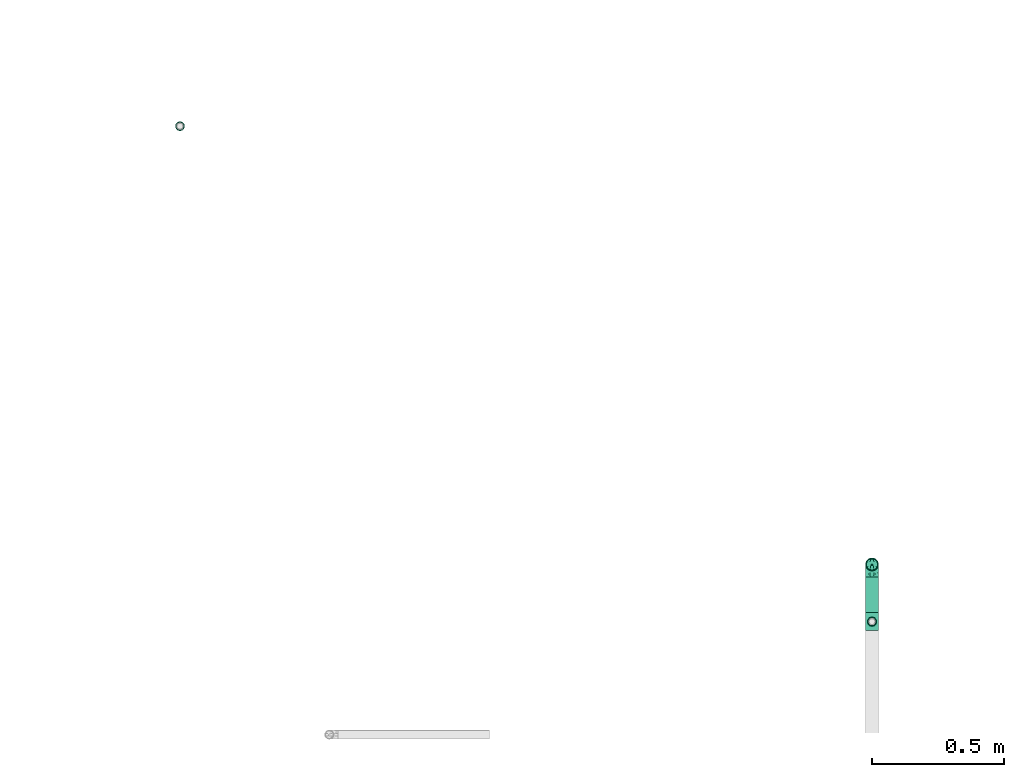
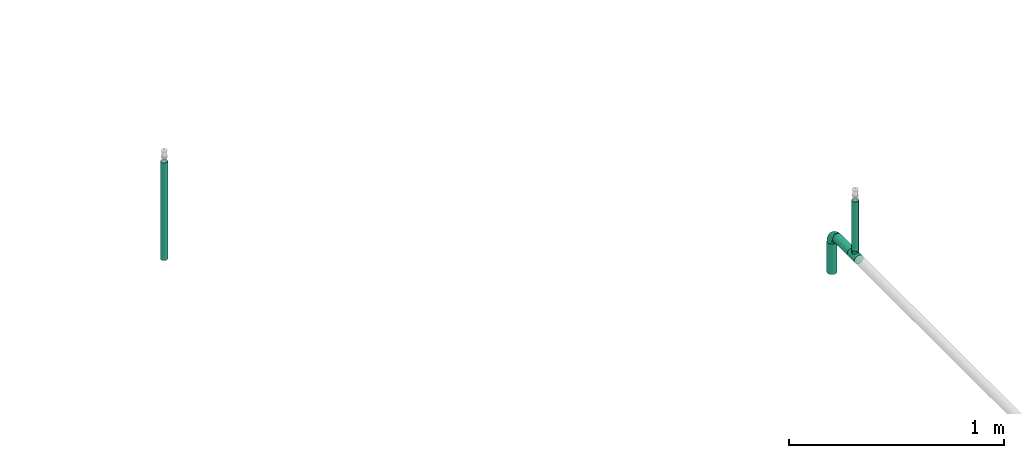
# One storey, part 18 of 63: 4 flow segments, 2 flow fittings.
"""IFC2X3 building model written with IfcOpenShell, lengths in millimetres."""

from ifc_helpers import new_model, entity, si_unit, converted_unit, derived_unit, direction, frame, origin_with_axes, origin_2d_with_axis, place, context, subcontext, project, spatial, hollow_circle, extrude, open_shell, surface_model, source, transform, mapped, type_object, element, save


model = new_model("IFC2X3")

# Units and contexts
model_context = context("Model", 3, precision=0.01, world=frame((0.0, 4.29681676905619e-09, 0.0)), true_north=direction((4.01073788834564e-13, 1.0)))
plan_context = context("Plan", 3, precision=0.01, world=frame((0.0, 4.29681676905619e-09, 0.0)), true_north=direction((4.01073788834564e-13, 1.0)))
body_context = subcontext(model_context, "Body", "Model", "MODEL_VIEW")
ifc_project = project(units=[converted_unit("PLANEANGLEUNIT", "DEGREE", entity("IfcPositiveLengthMeasure", 0.0174532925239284), si_unit("PLANEANGLEUNIT", "RADIAN"), dimensions=[0, 0, 0, 0, 0, 0, 0]), si_unit("AREAUNIT", "SQUARE_METRE"), si_unit("LENGTHUNIT", "METRE", prefix="MILLI"), si_unit("MASSUNIT", "GRAM", prefix="KILO"), si_unit("POWERUNIT", "WATT"), si_unit("PRESSUREUNIT", "PASCAL", prefix="KILO"), si_unit("FORCEUNIT", "NEWTON", prefix="KILO"), si_unit("ELECTRICVOLTAGEUNIT", "VOLT"), si_unit("ELECTRICCURRENTUNIT", "AMPERE"), si_unit("THERMODYNAMICTEMPERATUREUNIT", "DEGREE_CELSIUS"), si_unit("TIMEUNIT", "SECOND"), si_unit("VOLUMEUNIT", "CUBIC_METRE"), derived_unit("LINEARVELOCITYUNIT", [(si_unit("LENGTHUNIT", "METRE"), 1), (si_unit("TIMEUNIT", "SECOND"), -1)]), derived_unit("VOLUMETRICFLOWRATEUNIT", [(si_unit("VOLUMEUNIT", "CUBIC_METRE"), 1), (si_unit("TIMEUNIT", "SECOND"), -1)]), derived_unit("THERMALTRANSMITTANCEUNIT", [(si_unit("POWERUNIT", "WATT"), 1), (si_unit("THERMODYNAMICTEMPERATUREUNIT", "KELVIN"), -1), (si_unit("AREAUNIT", "SQUARE_METRE"), -1)]), derived_unit("SOUNDPRESSUREUNIT", [(si_unit("PRESSUREUNIT", "PASCAL"), 1)])], contexts=[model_context, plan_context])

# Site, building, storey
site_placement = place(None, frame((0.0, -4.29681676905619e-09, 0.0), z_axis=(0.0, 0.0, 1.0), x_axis=(1.0, 0.0, 0.0)))
site = spatial("IfcSite", under=ifc_project, at=site_placement, CompositionType="ELEMENT")
building_placement = place(site_placement, frame((0.0, 4.29681676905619e-09, 0.0), z_axis=(0.0, 0.0, 1.0), x_axis=(1.0, 0.0, 0.0)))
building = spatial("IfcBuilding", under=site, at=building_placement, Name="mc-building", CompositionType="ELEMENT")
storey_placement = place(building_placement, frame((0.0, 0.0, 207370.0), z_axis=(0.0, 0.0, 1.0), x_axis=(1.0, 0.0, 0.0)))
storey = spatial("IfcBuildingStorey", under=building, at=storey_placement, Name="Nivå E", CompositionType="ELEMENT", Elevation=207370.0)

# Flow fittings
pipe_fitting_type_1 = type_object("IfcPipeFittingType", Name="magi_pipe_fe_elbow_short_001", PredefinedType="BEND")
shared_shape_1 = source(origin_with_axes(), body_context, "Body", "SurfaceModel", [
    surface_model("IfcShellBasedSurfaceModel", [(-48.4, 6.26342, -23.37541), (-48.4, 0.0, -24.2), (-48.4, 17.11198, -17.11198), (-48.4, 12.1, -20.95781), (-48.4, 23.37541, -6.26342), (-48.4, 20.95781, -12.1), (-48.4, -12.1, -20.95781), (-48.4, -17.11198, -17.11198), (-48.4, -20.95781, -12.1), (-48.4, -6.26342, -23.37541), (-48.4, -23.37541, -6.26342), (-48.4, -24.2, 0.0), (-48.4, -23.37541, 6.26342), (-48.4, 23.37541, 6.26342), (-48.4, 6.26342, 23.37541), (-48.4, 20.95781, 12.1), (-48.4, 17.11198, 17.11198), (-48.4, 12.1, 20.95781), (-48.4, -12.1, 20.95781), (-48.4, -20.95781, 12.1), (-48.4, -17.11198, 17.11198), (-48.4, -6.26342, 23.37541), (-48.4, 0.0, 24.2), (-48.4, 24.2, 0.0), (-17.11198, 48.4, -17.11198), (0.0, 48.4, -24.2), (-6.26342, 48.4, -23.37541), (-12.1, 48.4, -20.95781), (-20.95781, 48.4, -12.1), (-23.37541, 48.4, -6.26342), (12.1, 48.4, -20.95781), (20.95781, 48.4, -12.1), (17.11198, 48.4, -17.11198), (6.26342, 48.4, -23.37541), (23.37541, 48.4, -6.26342), (23.37541, 48.4, 6.26342), (24.2, 48.4, 0.0), (-23.37541, 48.4, 6.26342), (-6.26342, 48.4, 23.37541), (-17.11198, 48.4, 17.11198), (-20.95781, 48.4, 12.1), (-12.1, 48.4, 20.95781), (12.1, 48.4, 20.95781), (17.11198, 48.4, 17.11198), (20.95781, 48.4, 12.1), (0.0, 48.4, 24.2), (6.26342, 48.4, 23.37541), (-24.2, 48.4, 0.0), (-35.50368, -18.80076, 13.58523), (-31.77913, -13.9618, 18.03279), (-34.50859, -21.43683, 0.0), (-21.39243, -15.41147, 12.21413), (-32.16301, -21.12203, 7.54749), (21.12203, 32.16301, 7.54749), (17.07617, 18.95745, 6.20374), (18.67365, 20.61718, 0.0), (-23.65565, 38.62451, 10.51816), (-20.21592, 37.67665, 15.89859), (-35.56981, -9.15108, 21.77256), (-36.96985, -3.20584, 23.78612), (-33.88786, 3.70953, 24.15875), (-8.84062, -10.8048, 0.0), (-18.95745, -17.07617, 6.20374), (-20.61718, -18.67365, 0.0), (-18.69715, -5.87343, 20.10488), (-24.09336, -0.21717, 23.45593), (-2.08262, -4.09091, 10.90396), (-0.40561, 0.49936, 14.45569), (-8.22634, -5.79523, 14.90978), (-37.83027, 20.17367, 15.88169), (-8.41063, 23.79825, 24.15658), (-17.92529, 17.92529, 23.61199), (-14.40991, 10.5752, 24.07534), (-41.86919, 14.6551, 19.71874), (-9.03342, 41.7434, 22.66763), (-3.31671, 36.19978, 24.14056), (-38.63654, 23.65174, 10.51655), (-38.25939, 25.77657, 5.32075), (-30.0475, 30.0475, 9.04616), (-37.30448, 9.49113, 22.86036), (-6.31688, 16.20853, 23.76192), (-12.02449, 4.43954, 22.59792), (-2.47225, 13.07459, 22.23951), (-4.32281, 4.32281, 19.78555), (13.9618, 31.77913, 18.03279), (15.41147, 21.39243, 12.21413), (18.80076, 35.50367, 13.58523), (-25.72741, 16.42033, 22.38358), (-26.59277, 10.36599, 23.76692), (3.20584, 36.96985, 23.78612), (9.15107, 35.56981, 21.77256), (5.87343, 18.69715, 20.10488), (21.43683, 34.50859, 0.0), (-23.74657, 5.93004, 24.18967), (-22.40302, 25.55556, 19.88516), (-33.3245, 16.42738, 20.3789), (-25.47357, 39.04012, 5.19167), (-30.32947, 31.74105, 4.25904), (11.04589, 19.60124, 16.55181), (-27.44219, 36.3, 0.0), (-10.46605, 32.79159, 23.04712), (-13.80953, 25.05111, 23.26361), (-17.54489, 31.27863, 20.33941), (-19.27982, 23.42922, 22.01925), (-14.78447, 40.57947, 19.81913), (-19.60124, -11.04589, 16.55181), (-25.09785, 32.07921, 13.69695), (-25.5093, 27.02629, 17.14196), (-31.08127, 26.00324, 13.49448), (0.21717, 24.09336, 23.45593), (5.51075, 8.40547, 15.32867), (-11.48597, -10.80284, 11.35932), (1.43689, -3.14326, 6.54995), (7.34882, 4.31024, 8.4514), (7.50574, 2.51208, 3.62663), (12.46453, 10.09451, 5.71609), (12.1504, 12.55391, 10.15678), (-36.3, 27.44219, 0.0), (-6.52237, -9.62364, 7.02633), (2.93595, -2.93595, 0.0), (10.8048, 8.84062, 0.0), (-19.60124, -11.04589, -16.55181), (-31.77913, -13.9618, -18.03279), (-18.69715, -5.87343, -20.10488), (-21.39243, -15.41147, -12.21413), (-37.67665, 20.21591, -15.89859), (-40.57947, 14.78447, -19.81913), (-39.04012, 25.47357, -5.19167), (-32.16301, -21.12203, -7.54749), (-30.0475, 30.0475, -9.04616), (-38.62452, 23.65565, -10.51816), (-18.95745, -17.07617, -6.20374), (-23.42922, 19.27982, -22.01926), (-25.05111, 13.80953, -23.26361), (-31.27863, 17.54489, -20.33941), (-14.6551, 41.86919, -19.71874), (-20.17367, 37.83026, -15.88169), (9.15108, 35.56981, -21.77256), (5.87343, 18.69715, -20.10488), (0.21717, 24.09336, -23.45593), (-41.7434, 9.03342, -22.66763), (-35.50368, -18.80076, -13.58523), (-35.56981, -9.15108, -21.77256), (-16.42033, 25.72741, -22.38358), (-9.49113, 37.30447, -22.86036), (-10.36599, 26.59277, -23.76692), (-36.96985, -3.20584, -23.78612), (-23.79826, 8.41063, -24.15658), (-17.92529, 17.92529, -23.61199), (-10.5752, 14.40991, -24.07534), (-36.19978, 3.31671, -24.14056), (-25.77657, 38.25939, -5.32075), (-23.65174, 38.63654, -10.51655), (-32.79159, 10.46605, -23.04712), (-31.74105, 30.32946, -4.25904), (-5.93004, 23.74657, -24.18967), (-25.55556, 22.40302, -19.88516), (-16.42738, 33.3245, -20.3789), (3.20584, 36.96985, -23.78612), (-3.70953, 33.88785, -24.15875), (18.80076, 35.50367, -13.58523), (13.9618, 31.77913, -18.03279), (7.50574, 2.51208, -3.62663), (12.46453, 10.09451, -5.71609), (-16.20853, 6.31688, -23.76192), (-4.43954, 12.02449, -22.59792), (-13.07459, 2.47225, -22.23951), (1.43689, -3.14326, -6.54995), (-6.52237, -9.62364, -7.02632), (-2.08262, -4.09091, -10.90396), (15.41147, 21.39243, -12.21413), (21.12203, 32.16301, -7.54749), (17.07617, 18.95745, -6.20374), (-32.07921, 25.09785, -13.69695), (11.04589, 19.60124, -16.55181), (12.1504, 12.55391, -10.15678), (5.51075, 8.40547, -15.32867), (-27.02629, 25.5093, -17.14196), (-26.00324, 31.08127, -13.49448), (-24.09336, -0.21717, -23.45593), (-4.32281, 4.32281, -19.78555), (-8.22634, -5.79524, -14.90978), (-11.48597, -10.80284, -11.35931), (-0.40561, 0.49936, -14.45569), (7.34882, 4.31024, -8.4514)], [open_shell([[[0, 1, 2]], [[3, 0, 2]], [[4, 5, 2]], [[6, 2, 1]], [[4, 2, 6]], [[7, 8, 6]], [[1, 9, 6]], [[8, 10, 6]], [[6, 10, 4]], [[11, 12, 10]], [[13, 4, 10]], [[14, 13, 10]], [[15, 13, 16]], [[13, 14, 17]], [[16, 13, 17]], [[10, 18, 14]], [[19, 20, 12]], [[20, 10, 12]], [[21, 22, 18]], [[20, 18, 10]], [[18, 22, 14]], [[23, 4, 13]], [[24, 25, 26]], [[24, 26, 27]], [[24, 28, 29]], [[25, 24, 30]], [[30, 24, 29]], [[30, 31, 32]], [[30, 33, 25]], [[30, 34, 31]], [[29, 34, 30]], [[34, 35, 36]], [[34, 29, 37]], [[34, 37, 38]], [[39, 37, 40]], [[41, 38, 37]], [[41, 37, 39]], [[38, 42, 34]], [[35, 43, 44]], [[35, 34, 43]], [[42, 45, 46]], [[34, 42, 43]], [[38, 45, 42]], [[37, 29, 47]], [[20, 48, 49]], [[12, 11, 50]], [[51, 48, 52]], [[53, 54, 55]], [[48, 20, 19]], [[12, 52, 19]], [[40, 56, 57]], [[49, 18, 20]], [[49, 58, 18]], [[22, 59, 60]], [[61, 62, 63]], [[58, 64, 65]], [[66, 67, 68]], [[15, 16, 69]], [[70, 71, 72]], [[17, 73, 16]], [[21, 59, 22]], [[38, 74, 75]], [[22, 60, 14]], [[15, 69, 76]], [[16, 73, 69]], [[23, 13, 77]], [[13, 15, 76]], [[77, 76, 78]], [[14, 79, 17]], [[80, 81, 82]], [[68, 83, 64]], [[84, 43, 42]], [[85, 86, 84]], [[87, 79, 88]], [[18, 58, 21]], [[45, 89, 46]], [[53, 35, 44]], [[45, 38, 75]], [[84, 90, 91]], [[44, 86, 53]], [[92, 35, 53]], [[86, 44, 43]], [[90, 42, 46]], [[53, 55, 92]], [[88, 93, 72]], [[54, 53, 85]], [[87, 94, 95]], [[78, 96, 97]], [[98, 84, 91]], [[99, 96, 47]], [[79, 14, 60]], [[96, 78, 56]], [[62, 52, 63]], [[57, 39, 40]], [[100, 70, 75]], [[101, 102, 103]], [[12, 50, 52]], [[104, 41, 39]], [[74, 38, 41]], [[57, 102, 104]], [[105, 64, 49]], [[90, 84, 42]], [[40, 37, 56]], [[56, 106, 57]], [[102, 57, 107]], [[95, 107, 69]], [[76, 108, 78]], [[100, 101, 70]], [[89, 75, 109]], [[64, 58, 49]], [[63, 52, 50]], [[59, 58, 65]], [[105, 49, 51]], [[64, 83, 81]], [[89, 90, 46]], [[36, 35, 92]], [[109, 82, 91]], [[109, 91, 90]], [[91, 83, 110]], [[111, 68, 105]], [[66, 68, 111]], [[62, 51, 52]], [[66, 112, 113]], [[114, 115, 113]], [[98, 85, 84]], [[52, 48, 19]], [[49, 48, 51]], [[84, 86, 43]], [[53, 86, 85]], [[88, 79, 60]], [[73, 79, 95]], [[96, 56, 37]], [[78, 108, 106]], [[87, 103, 94]], [[100, 74, 104]], [[108, 69, 107]], [[78, 97, 77]], [[88, 72, 71]], [[109, 75, 70]], [[81, 72, 65]], [[70, 72, 80]], [[75, 89, 45]], [[90, 89, 109]], [[58, 59, 21]], [[60, 59, 65]], [[67, 83, 68]], [[110, 113, 116]], [[88, 60, 93]], [[87, 88, 71]], [[103, 87, 71]], [[79, 87, 95]], [[101, 103, 71]], [[94, 103, 102]], [[47, 96, 37]], [[96, 99, 97]], [[99, 117, 97]], [[97, 117, 77]], [[23, 77, 117]], [[13, 76, 77]], [[60, 65, 93]], [[65, 72, 93]], [[70, 101, 71]], [[102, 101, 100]], [[69, 108, 76]], [[106, 108, 107]], [[57, 106, 107]], [[78, 106, 56]], [[57, 104, 39]], [[100, 104, 102]], [[102, 107, 94]], [[95, 94, 107]], [[64, 81, 65]], [[82, 81, 83]], [[91, 82, 83]], [[80, 82, 109]], [[70, 80, 109]], [[81, 80, 72]], [[79, 73, 17]], [[69, 73, 95]], [[104, 74, 41]], [[75, 74, 100]], [[62, 61, 118]], [[111, 62, 118]], [[113, 115, 116]], [[119, 118, 61]], [[111, 105, 51]], [[113, 112, 114]], [[120, 55, 54]], [[68, 64, 105]], [[91, 110, 98]], [[116, 98, 110]], [[62, 111, 51]], [[66, 111, 118]], [[112, 66, 118]], [[67, 113, 110]], [[118, 119, 112]], [[114, 112, 119]], [[119, 120, 114]], [[115, 120, 54]], [[120, 115, 114]], [[116, 54, 85]], [[54, 116, 115]], [[116, 85, 98]], [[113, 67, 66]], [[83, 67, 110]], [[121, 122, 123]], [[122, 121, 124]], [[5, 125, 2]], [[2, 126, 3]], [[117, 127, 23]], [[50, 10, 128]], [[127, 129, 130]], [[128, 131, 63]], [[132, 133, 134]], [[24, 135, 136]], [[137, 138, 139]], [[3, 140, 0]], [[128, 8, 141]], [[142, 6, 9]], [[128, 63, 50]], [[5, 4, 130]], [[8, 7, 141]], [[143, 144, 145]], [[146, 9, 1]], [[147, 148, 149]], [[8, 128, 10]], [[124, 141, 122]], [[150, 1, 0]], [[151, 152, 129]], [[125, 134, 126]], [[153, 147, 150]], [[127, 154, 129]], [[145, 155, 149]], [[47, 29, 151]], [[143, 156, 157]], [[152, 29, 28]], [[25, 158, 159]], [[122, 7, 6]], [[24, 27, 135]], [[144, 27, 26]], [[32, 160, 161]], [[25, 33, 158]], [[120, 162, 163]], [[130, 125, 5]], [[24, 136, 28]], [[0, 140, 150]], [[30, 161, 137]], [[142, 122, 6]], [[25, 159, 26]], [[164, 165, 166]], [[167, 168, 169]], [[31, 160, 32]], [[161, 30, 32]], [[170, 160, 171]], [[131, 128, 124]], [[36, 92, 34]], [[34, 92, 171]], [[172, 171, 55]], [[34, 171, 31]], [[144, 26, 159]], [[130, 173, 125]], [[174, 175, 176]], [[136, 152, 28]], [[30, 137, 33]], [[122, 142, 123]], [[134, 125, 177]], [[157, 177, 136]], [[152, 178, 129]], [[153, 133, 147]], [[146, 150, 179]], [[146, 142, 9]], [[11, 10, 50]], [[179, 166, 123]], [[179, 123, 142]], [[123, 180, 181]], [[138, 137, 161]], [[55, 171, 92]], [[158, 137, 139]], [[174, 161, 170]], [[138, 180, 165]], [[180, 138, 176]], [[124, 121, 182]], [[176, 183, 180]], [[61, 131, 168]], [[169, 168, 182]], [[172, 170, 171]], [[122, 141, 7]], [[128, 141, 124]], [[171, 160, 31]], [[161, 160, 170]], [[145, 144, 159]], [[135, 144, 157]], [[127, 130, 4]], [[129, 178, 173]], [[143, 132, 156]], [[153, 140, 126]], [[178, 136, 177]], [[129, 154, 151]], [[145, 149, 148]], [[179, 150, 147]], [[165, 149, 139]], [[147, 149, 164]], [[150, 146, 1]], [[142, 146, 179]], [[137, 158, 33]], [[159, 158, 139]], [[174, 138, 161]], [[184, 169, 183]], [[145, 159, 155]], [[143, 145, 148]], [[132, 143, 148]], [[144, 143, 157]], [[133, 132, 148]], [[156, 132, 134]], [[23, 127, 4]], [[127, 117, 154]], [[117, 99, 154]], [[154, 99, 151]], [[47, 151, 99]], [[29, 152, 151]], [[159, 139, 155]], [[139, 149, 155]], [[147, 133, 148]], [[134, 133, 153]], [[136, 178, 152]], [[173, 178, 177]], [[125, 173, 177]], [[129, 173, 130]], [[125, 126, 2]], [[153, 126, 134]], [[134, 177, 156]], [[157, 156, 177]], [[138, 165, 139]], [[166, 165, 180]], [[123, 166, 180]], [[164, 166, 179]], [[147, 164, 179]], [[165, 164, 149]], [[144, 135, 27]], [[136, 135, 157]], [[126, 140, 3]], [[150, 140, 153]], [[182, 131, 124]], [[168, 119, 61]], [[119, 167, 162]], [[63, 131, 61]], [[172, 163, 175]], [[172, 55, 120]], [[123, 181, 121]], [[182, 121, 181]], [[175, 174, 170]], [[176, 138, 174]], [[169, 182, 181]], [[131, 182, 168]], [[183, 169, 181]], [[167, 169, 184]], [[162, 167, 184]], [[119, 168, 167]], [[163, 162, 184]], [[120, 119, 162]], [[175, 163, 184]], [[120, 163, 172]], [[176, 175, 184]], [[172, 175, 170]], [[180, 183, 181]], [[184, 183, 176]]])]),
])
flow_fitting_1_placement = place(storey_placement, frame((728641.29045, 439629.40604, 2700.0), z_axis=(1.0, 0.0, 0.0), x_axis=(0.0, 0.0, 1.0)))
element("IfcFlowFitting", 1, at=flow_fitting_1_placement, inside=storey, type_object=pipe_fitting_type_1, Name="magi_pipe_fe_elbow_short_001", context=body_context, shape_type="MappedRepresentation", body=[
    mapped(shared_shape_1, transform((0.0, 0.0, 0.0), scale=1.0)),
])
pipe_fitting_type_2 = type_object("IfcPipeFittingType", Name="magi_pipe_fe_tee_centric_90_NOR", PredefinedType="JUNCTION")
shared_shape_2 = source(origin_with_axes(), body_context, "Body", "SurfaceModel", [
    surface_model("IfcShellBasedSurfaceModel", [(-33.8, 0.0, -24.2), (-33.8, -6.26342, -23.37541), (-33.8, 6.26342, -23.37541), (-33.8, 12.1, -20.95781), (-33.8, 17.11198, -17.11198), (-33.8, 20.95781, -12.1), (-33.8, -23.37541, -6.26342), (-33.8, 23.37541, -6.26342), (-33.8, -17.11198, -17.11198), (-33.8, -20.95781, -12.1), (-33.8, -12.1, -20.95781), (-33.8, -24.2, 0.0), (-33.8, -23.37541, 6.26342), (-33.8, 20.95781, 12.1), (-33.8, 23.37541, 6.26342), (-33.8, 24.2, 0.0), (-33.8, 12.1, 20.95781), (-33.8, 17.11198, 17.11198), (-33.8, -17.11198, 17.11198), (-33.8, 6.26342, 23.37541), (-33.8, -20.95781, 12.1), (-33.8, -12.1, 20.95781), (-33.8, -6.26342, 23.37541), (-33.8, 0.0, 24.2), (33.8, 6.26342, -23.37541), (33.8, -6.26342, -23.37541), (33.8, 0.0, -24.2), (33.8, 17.11198, -17.11198), (33.8, 12.1, -20.95781), (33.8, -23.37541, -6.26342), (33.8, 20.95781, -12.1), (33.8, 23.37541, -6.26342), (33.8, -17.11198, -17.11198), (33.8, -12.1, -20.95781), (33.8, -20.95781, -12.1), (33.8, -24.2, 0.0), (33.8, 24.2, 0.0), (33.8, 23.37541, 6.26342), (33.8, 20.95781, 12.1), (33.8, -23.37541, 6.26342), (33.8, -17.11198, 17.11198), (33.8, 12.1, 20.95781), (33.8, 17.11198, 17.11198), (33.8, 6.26342, 23.37541), (33.8, -20.95781, 12.1), (33.8, -12.1, 20.95781), (33.8, 0.0, 24.2), (33.8, -6.26342, 23.37541), (15.81824, -23.45734, 5.94922), (16.9, -24.2, 0.0), (12.87025, -21.57947, 10.95293), (33.8, -19.0349, 14.60599), (8.52813, -19.30697, 14.59044), (3.03527, -17.5853, 16.6252), (-3.04044, -17.58619, 16.62425), (-8.52961, -19.30762, 14.58958), (-33.8, -19.0349, 14.60599), (-16.9, -24.2, 0.0), (-15.81885, -23.45775, 5.9476), (-12.87368, -21.58151, 10.9489), (3.03527, -17.5853, -16.6252), (33.8, -19.0349, -14.60599), (8.52813, -19.30697, -14.59044), (-8.52961, -19.30762, -14.58958), (-33.8, -19.0349, -14.60599), (12.87025, -21.57947, -10.95293), (-3.04044, -17.58619, -16.62425), (15.81824, -23.45734, -5.94922), (-12.87368, -21.58151, -10.9489), (-15.81885, -23.45775, -5.9476), (4.37404, -36.3, -16.32415), (-16.9, -36.3, 0.0), (0.0, -36.3, -16.9), (14.63583, -36.3, -8.45), (8.45, -36.3, -14.63583), (16.32415, -36.3, -4.37404), (11.9501, -36.3, -11.9501), (-11.9501, -36.3, -11.9501), (-8.45, -36.3, -14.63583), (-4.37404, -36.3, -16.32415), (-14.63583, -36.3, -8.45), (-16.32415, -36.3, -4.37404), (16.9, -36.3, 0.0), (8.45, -36.3, 14.63583), (16.32415, -36.3, 4.37404), (14.63583, -36.3, 8.45), (-8.45, -36.3, 14.63583), (11.9501, -36.3, 11.9501), (4.37404, -36.3, 16.32415), (-16.32415, -36.3, 4.37404), (-11.9501, -36.3, 11.9501), (-14.63583, -36.3, 8.45), (0.0, -36.3, 16.9), (-4.37404, -36.3, 16.32415), (-16.35943, -23.82888, 2.9738), (16.35912, -23.82867, 2.97461), (-0.00259, -17.58575, 16.62472), (16.35912, -23.82867, -2.97461), (-0.00259, -17.58575, -16.62472), (-16.35943, -23.82888, -2.9738)], [open_shell([[[0, 1, 2]], [[3, 2, 4]], [[5, 2, 6]], [[4, 2, 5]], [[7, 5, 6]], [[8, 9, 10]], [[1, 10, 9]], [[1, 9, 2]], [[9, 6, 2]], [[6, 11, 7]], [[11, 12, 7]], [[13, 14, 15]], [[13, 15, 12]], [[16, 17, 18]], [[12, 17, 13]], [[19, 16, 18]], [[20, 18, 12]], [[18, 17, 12]], [[21, 22, 18]], [[23, 18, 22]], [[18, 23, 19]], [[7, 12, 15]], [[24, 25, 26]], [[27, 24, 28]], [[29, 24, 30]], [[30, 24, 27]], [[29, 30, 31]], [[25, 32, 33]], [[32, 25, 34]], [[24, 34, 25]], [[24, 29, 34]], [[31, 35, 29]], [[31, 36, 35]], [[36, 37, 38]], [[39, 36, 38]], [[40, 38, 41]], [[41, 38, 42]], [[40, 41, 43]], [[39, 40, 44]], [[39, 38, 40]], [[45, 46, 47]], [[46, 45, 40]], [[43, 46, 40]], [[36, 39, 35]], [[35, 39, 48]], [[48, 49, 35]], [[39, 50, 48]], [[51, 40, 52]], [[52, 50, 44]], [[53, 52, 40]], [[54, 53, 21]], [[44, 50, 39]], [[55, 18, 56]], [[57, 58, 11]], [[12, 11, 58]], [[58, 59, 12]], [[55, 54, 18]], [[55, 20, 59]], [[20, 55, 56]], [[59, 20, 12]], [[18, 54, 21]], [[52, 44, 51]], [[53, 40, 45]], [[23, 47, 46]], [[22, 45, 47]], [[19, 46, 43]], [[38, 37, 14]], [[17, 41, 42]], [[13, 42, 38]], [[43, 41, 16]], [[15, 37, 36]], [[21, 45, 22]], [[22, 47, 23]], [[19, 23, 46]], [[43, 16, 19]], [[16, 41, 17]], [[13, 17, 42]], [[14, 13, 38]], [[37, 15, 14]], [[45, 21, 53]], [[5, 31, 30]], [[7, 36, 31]], [[4, 30, 27]], [[26, 25, 1]], [[2, 28, 24]], [[0, 24, 26]], [[27, 28, 3]], [[10, 25, 33]], [[15, 36, 7]], [[7, 31, 5]], [[4, 5, 30]], [[27, 3, 4]], [[3, 28, 2]], [[0, 2, 24]], [[1, 0, 26]], [[25, 10, 1]], [[33, 60, 10]], [[61, 34, 62]], [[63, 9, 64]], [[62, 60, 32]], [[34, 65, 62]], [[66, 10, 60]], [[29, 35, 67]], [[67, 65, 29]], [[49, 67, 35]], [[29, 65, 34]], [[66, 63, 8]], [[62, 32, 61]], [[64, 8, 63]], [[63, 68, 9]], [[8, 10, 66]], [[68, 69, 6]], [[69, 11, 6]], [[11, 69, 57]], [[68, 6, 9]], [[60, 33, 32]], [[70, 71, 72]], [[73, 70, 74]], [[73, 75, 70]], [[73, 74, 76]], [[71, 70, 75]], [[72, 77, 78]], [[78, 79, 72]], [[80, 71, 81]], [[77, 72, 80]], [[71, 80, 72]], [[75, 82, 71]], [[83, 82, 84]], [[83, 84, 85]], [[86, 71, 83]], [[83, 85, 87]], [[86, 83, 88]], [[89, 90, 91]], [[90, 89, 86]], [[86, 92, 93]], [[89, 71, 86]], [[88, 92, 86]], [[83, 71, 82]], [[89, 94, 71]], [[59, 91, 90]], [[89, 91, 58]], [[90, 86, 55]], [[89, 58, 94]], [[94, 57, 71]], [[58, 91, 59]], [[95, 48, 84]], [[55, 93, 54]], [[55, 59, 90]], [[92, 53, 96]], [[55, 86, 93]], [[53, 92, 88]], [[83, 52, 88]], [[87, 85, 50]], [[87, 52, 83]], [[48, 85, 84]], [[87, 50, 52]], [[52, 53, 88]], [[82, 95, 84]], [[48, 50, 85]], [[95, 82, 49]], [[92, 54, 93]], [[96, 54, 92]], [[75, 97, 82]], [[65, 73, 76]], [[75, 73, 67]], [[76, 74, 62]], [[97, 49, 82]], [[67, 73, 65]], [[62, 70, 60]], [[62, 65, 76]], [[72, 66, 98]], [[62, 74, 70]], [[99, 71, 57]], [[99, 69, 81]], [[75, 67, 97]], [[79, 66, 72]], [[69, 80, 81]], [[77, 80, 68]], [[72, 60, 70]], [[79, 63, 66]], [[63, 79, 78]], [[78, 77, 63]], [[63, 77, 68]], [[68, 80, 69]], [[71, 99, 81]], [[98, 60, 72]]])]),
])
flow_fitting_2_placement = place(storey_placement, frame((728641.29045, 439411.81651, 2700.0), z_axis=(-1.0, 0.0, 0.0), x_axis=(0.0, 1.0, 0.0)))
element("IfcFlowFitting", 2, at=flow_fitting_2_placement, inside=storey, type_object=pipe_fitting_type_2, Name="magi_pipe_fe_tee_centric_90_NOR", context=body_context, shape_type="MappedRepresentation", body=[
    mapped(shared_shape_2, transform((0.0, 0.0, 0.0), scale=1.0)),
])

# Flow segments
pipe_segment_type = type_object("IfcPipeSegmentType", Name="Stålrør normaltykke", PredefinedType="RIGIDSEGMENT")
shared_shape_3 = source(origin_with_axes(), body_context, "Body", "SweptSolid", [
    extrude(hollow_circle(Radius=24.1, WallThickness=2.0, at=origin_2d_with_axis()), frame((0.0, 0.0, 0.0), z_axis=(1.0, 0.0, 0.0), x_axis=(0.0, 1.0, 0.0)), (0.0, 0.0, 1.0), 173.2),
])
flow_segment_1_placement = place(storey_placement, frame((728641.29045, 439629.40604, 2478.39999999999), z_axis=(0.0, 1.0, 0.0), x_axis=(0.0, 0.0, 1.0)))
element("IfcFlowSegment", 3, at=flow_segment_1_placement, inside=storey, type_object=pipe_segment_type, Name="Stålrør normaltykke", context=body_context, shape_type="MappedRepresentation", body=[
    mapped(shared_shape_3, transform((0.0, 0.0, 0.0), scale=1.0)),
])
shared_shape_4 = source(origin_with_axes(), body_context, "Body", "SweptSolid", [
    extrude(hollow_circle(Radius=16.9, WallThickness=2.0, at=origin_2d_with_axis()), frame((0.0, 0.0, 0.0), z_axis=(1.0, 0.0, 0.0), x_axis=(0.0, 1.0, 0.0)), (0.0, 0.0, 1.0), 282.1),
])
flow_segment_2_placement = place(storey_placement, frame((728641.29045, 439411.81651, 2736.29999999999), z_axis=(1.0, 0.0, 0.0), x_axis=(0.0, 0.0, 1.0)))
element("IfcFlowSegment", 4, at=flow_segment_2_placement, inside=storey, type_object=pipe_segment_type, Name="Stålrør normaltykke", context=body_context, shape_type="MappedRepresentation", body=[
    mapped(shared_shape_4, transform((0.0, 0.0, 0.0), scale=1.0)),
])
shared_shape_5 = source(origin_with_axes(), body_context, "Body", "SweptSolid", [
    extrude(hollow_circle(Radius=24.1, WallThickness=2.0, at=origin_2d_with_axis()), frame((0.0, 0.0, 0.0), z_axis=(1.0, 0.0, 0.0), x_axis=(0.0, 1.0, 0.0)), (0.0, 0.0, 1.0), 135.4),
])
flow_segment_3_placement = place(storey_placement, frame((728641.29045, 439581.00604, 2700.0), z_axis=(0.0, 0.0, 1.0), x_axis=(0.0, -1.0, 0.0)))
element("IfcFlowSegment", 5, at=flow_segment_3_placement, inside=storey, type_object=pipe_segment_type, Name="Stålrør normaltykke", context=body_context, shape_type="MappedRepresentation", body=[
    mapped(shared_shape_5, transform((0.0, 0.0, 0.0), scale=1.0)),
])
shared_shape_6 = source(origin_with_axes(), body_context, "Body", "SweptSolid", [
    extrude(hollow_circle(Radius=16.9, WallThickness=2.0, at=origin_2d_with_axis()), frame((0.0, 0.0, 0.0), z_axis=(1.0, 0.0, 0.0), x_axis=(0.0, 1.0, 0.0)), (0.0, 0.0, 1.0), 554.6),
])
flow_segment_4_placement = place(storey_placement, frame((726013.2856, 441293.31989, 2463.79999999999), z_axis=(0.0, -1.0, 0.0), x_axis=(0.0, 0.0, 1.0)))
element("IfcFlowSegment", 6, at=flow_segment_4_placement, inside=storey, type_object=pipe_segment_type, Name="Stålrør normaltykke", context=body_context, shape_type="MappedRepresentation", body=[
    mapped(shared_shape_6, transform((0.0, 0.0, 0.0), scale=1.0)),
])

save(model, "model.ifc")
